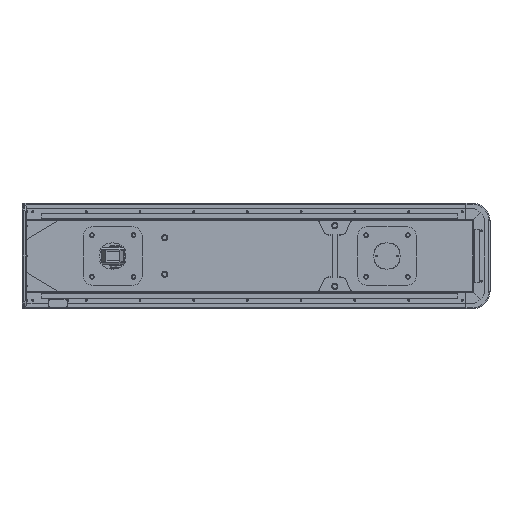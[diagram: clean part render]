
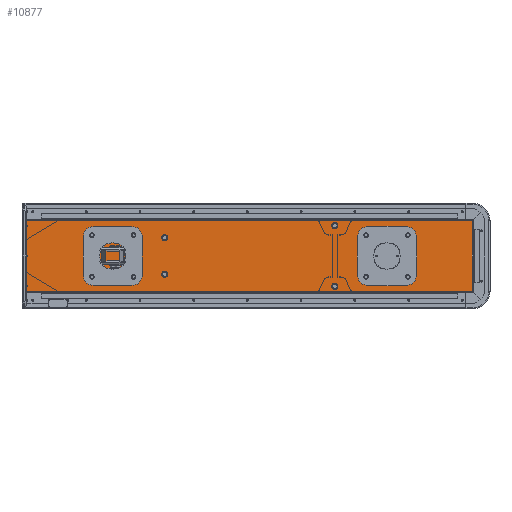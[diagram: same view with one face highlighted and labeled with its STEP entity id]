
A CAD part, front view. The second image highlights one B-rep face of the part: STEP entity #10877.
In plain terms, the highlighted planar face has unit normal (0.013, -1, 0).
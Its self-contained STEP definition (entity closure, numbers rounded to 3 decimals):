
#711 = ORIENTED_EDGE ( 'NONE', *, *, #37029, .T. ) ;
#1322 = AXIS2_PLACEMENT_3D ( 'NONE', #62960, #57526, #13883 ) ;
#1842 = DIRECTION ( 'NONE',  ( -1., -0.013, 0. ) ) ;
#4982 = CIRCLE ( 'NONE', #23950, 4.05 ) ;
#4999 = VERTEX_POINT ( 'NONE', #42455 ) ;
#5925 = FACE_OUTER_BOUND ( 'NONE', #59277, .T. ) ;
#6568 = CARTESIAN_POINT ( 'NONE',  ( 641.32, 540.03, 101.5 ) ) ;
#8211 = DIRECTION ( 'NONE',  ( 0., 0., 1. ) ) ;
#8686 = CARTESIAN_POINT ( 'NONE',  ( -245.109, 528.809, 52.5 ) ) ;
#9005 = EDGE_CURVE ( 'NONE', #11003, #34115, #30200, .T. ) ;
#9031 = FACE_BOUND ( 'NONE', #33028, .T. ) ;
#9731 = CARTESIAN_POINT ( 'NONE',  ( -241.059, 528.86, 52.5 ) ) ;
#10877 = ADVANCED_FACE ( 'NONE', ( #38356, #15917, #15846, #9031, #5925 ), #44119, .T. ) ;
#11003 = VERTEX_POINT ( 'NONE', #9731 ) ;
#11688 = CARTESIAN_POINT ( 'NONE',  ( 240.802, 534.96, -87.5 ) ) ;
#11759 = EDGE_CURVE ( 'NONE', #41315, #31837, #22737, .T. ) ;
#12250 = CARTESIAN_POINT ( 'NONE',  ( 244.852, 535.011, 87.5 ) ) ;
#13015 = DIRECTION ( 'NONE',  ( -0.013, 1., 0. ) ) ;
#13615 = DIRECTION ( 'NONE',  ( 1., 0.013, 0. ) ) ;
#13883 = DIRECTION ( 'NONE',  ( 1., 0.013, 0. ) ) ;
#15319 = VERTEX_POINT ( 'NONE', #55532 ) ;
#15846 = FACE_BOUND ( 'NONE', #16862, .T. ) ;
#15917 = FACE_BOUND ( 'NONE', #43926, .T. ) ;
#16389 = CARTESIAN_POINT ( 'NONE',  ( 240.802, 534.96, 87.5 ) ) ;
#16862 = EDGE_LOOP ( 'NONE', ( #711, #61822 ) ) ;
#16916 = CARTESIAN_POINT ( 'NONE',  ( -245.109, 528.809, 52.5 ) ) ;
#17565 = DIRECTION ( 'NONE',  ( 1., 0.013, 0. ) ) ;
#17698 = DIRECTION ( 'NONE',  ( 1., 0.013, 0. ) ) ;
#18479 = AXIS2_PLACEMENT_3D ( 'NONE', #12250, #22137, #60923 ) ;
#20429 = DIRECTION ( 'NONE',  ( -0.013, 1., 0. ) ) ;
#20483 = VERTEX_POINT ( 'NONE', #27245 ) ;
#20641 = CARTESIAN_POINT ( 'NONE',  ( 244.852, 535.011, -87.5 ) ) ;
#21887 = DIRECTION ( 'NONE',  ( 1., 0.013, 0. ) ) ;
#22137 = DIRECTION ( 'NONE',  ( -0.013, 1., 0. ) ) ;
#22630 = CARTESIAN_POINT ( 'NONE',  ( 641.32, 540.03, -102.429 ) ) ;
#22737 = LINE ( 'NONE', #42456, #62244 ) ;
#23182 = AXIS2_PLACEMENT_3D ( 'NONE', #35636, #26088, #50592 ) ;
#23193 = EDGE_LOOP ( 'NONE', ( #40821, #61912 ) ) ;
#23950 = AXIS2_PLACEMENT_3D ( 'NONE', #62376, #47666, #17565 ) ;
#24865 = CARTESIAN_POINT ( 'NONE',  ( -249.159, 528.758, -52.5 ) ) ;
#25882 = EDGE_CURVE ( 'NONE', #41315, #4999, #41845, .T. ) ;
#26088 = DIRECTION ( 'NONE',  ( -0.013, 1., 0. ) ) ;
#26826 = ORIENTED_EDGE ( 'NONE', *, *, #25882, .F. ) ;
#27245 = CARTESIAN_POINT ( 'NONE',  ( 248.901, 535.063, 87.5 ) ) ;
#27596 = DIRECTION ( 'NONE',  ( -0.013, 1., 0. ) ) ;
#27920 = EDGE_CURVE ( 'NONE', #20483, #47024, #46693, .T. ) ;
#28483 = ORIENTED_EDGE ( 'NONE', *, *, #27920, .T. ) ;
#28587 = VECTOR ( 'NONE', #46031, 1000. ) ;
#29107 = ORIENTED_EDGE ( 'NONE', *, *, #11759, .T. ) ;
#30200 = CIRCLE ( 'NONE', #49597, 4.05 ) ;
#30294 = EDGE_CURVE ( 'NONE', #54648, #56284, #62279, .T. ) ;
#30558 = ORIENTED_EDGE ( 'NONE', *, *, #39678, .T. ) ;
#31837 = VERTEX_POINT ( 'NONE', #35504 ) ;
#32009 = CARTESIAN_POINT ( 'NONE',  ( -249.159, 528.758, 52.5 ) ) ;
#33028 = EDGE_LOOP ( 'NONE', ( #39385, #35675 ) ) ;
#33503 = DIRECTION ( 'NONE',  ( 0.013, -1., 0. ) ) ;
#33513 = EDGE_CURVE ( 'NONE', #60016, #4999, #33707, .T. ) ;
#33707 = LINE ( 'NONE', #60813, #60065 ) ;
#34115 = VERTEX_POINT ( 'NONE', #32009 ) ;
#34991 = LINE ( 'NONE', #22630, #60570 ) ;
#35504 = CARTESIAN_POINT ( 'NONE',  ( 641.32, 540.03, -101.5 ) ) ;
#35636 = CARTESIAN_POINT ( 'NONE',  ( 244.852, 535.011, -87.5 ) ) ;
#35675 = ORIENTED_EDGE ( 'NONE', *, *, #53852, .T. ) ;
#37029 = EDGE_CURVE ( 'NONE', #15319, #47944, #4982, .T. ) ;
#38356 = FACE_BOUND ( 'NONE', #23193, .T. ) ;
#39385 = ORIENTED_EDGE ( 'NONE', *, *, #9005, .T. ) ;
#39678 = EDGE_CURVE ( 'NONE', #47024, #20483, #40449, .T. ) ;
#40221 = CARTESIAN_POINT ( 'NONE',  ( -642.077, 523.784, -101.5 ) ) ;
#40449 = CIRCLE ( 'NONE', #45488, 4.05 ) ;
#40821 = ORIENTED_EDGE ( 'NONE', *, *, #30294, .T. ) ;
#41262 = EDGE_CURVE ( 'NONE', #56284, #54648, #43526, .T. ) ;
#41315 = VERTEX_POINT ( 'NONE', #40221 ) ;
#41845 = LINE ( 'NONE', #60732, #28587 ) ;
#42455 = CARTESIAN_POINT ( 'NONE',  ( -642.077, 523.784, 101.5 ) ) ;
#42456 = CARTESIAN_POINT ( 'NONE',  ( -645.077, 523.746, -101.5 ) ) ;
#43500 = DIRECTION ( 'NONE',  ( 0., 0., 1. ) ) ;
#43526 = CIRCLE ( 'NONE', #23182, 4.05 ) ;
#43739 = DIRECTION ( 'NONE',  ( 1., 0.013, 0. ) ) ;
#43926 = EDGE_LOOP ( 'NONE', ( #28483, #30558 ) ) ;
#44119 = PLANE ( 'NONE',  #57645 ) ;
#44481 = EDGE_CURVE ( 'NONE', #47944, #15319, #63345, .T. ) ;
#45488 = AXIS2_PLACEMENT_3D ( 'NONE', #57518, #13015, #17698 ) ;
#45577 = DIRECTION ( 'NONE',  ( 1., 0.013, 0. ) ) ;
#45770 = EDGE_CURVE ( 'NONE', #31837, #60016, #34991, .T. ) ;
#46031 = DIRECTION ( 'NONE',  ( 0., 0., 1. ) ) ;
#46693 = CIRCLE ( 'NONE', #18479, 4.05 ) ;
#47024 = VERTEX_POINT ( 'NONE', #16389 ) ;
#47666 = DIRECTION ( 'NONE',  ( -0.013, 1., 0. ) ) ;
#47718 = CIRCLE ( 'NONE', #63074, 4.05 ) ;
#47944 = VERTEX_POINT ( 'NONE', #24865 ) ;
#49597 = AXIS2_PLACEMENT_3D ( 'NONE', #8686, #27596, #13615 ) ;
#50592 = DIRECTION ( 'NONE',  ( 1., 0.013, 0. ) ) ;
#51551 = DIRECTION ( 'NONE',  ( -0.013, 1., 0. ) ) ;
#53281 = AXIS2_PLACEMENT_3D ( 'NONE', #20641, #20429, #45577 ) ;
#53852 = EDGE_CURVE ( 'NONE', #34115, #11003, #47718, .T. ) ;
#54026 = CARTESIAN_POINT ( 'NONE',  ( -0.379, 531.907, 0. ) ) ;
#54648 = VERTEX_POINT ( 'NONE', #60802 ) ;
#55532 = CARTESIAN_POINT ( 'NONE',  ( -241.059, 528.86, -52.5 ) ) ;
#56284 = VERTEX_POINT ( 'NONE', #11688 ) ;
#57145 = ORIENTED_EDGE ( 'NONE', *, *, #45770, .T. ) ;
#57518 = CARTESIAN_POINT ( 'NONE',  ( 244.852, 535.011, 87.5 ) ) ;
#57526 = DIRECTION ( 'NONE',  ( -0.013, 1., 0. ) ) ;
#57645 = AXIS2_PLACEMENT_3D ( 'NONE', #54026, #33503, #43500 ) ;
#59277 = EDGE_LOOP ( 'NONE', ( #60942, #26826, #29107, #57145 ) ) ;
#60016 = VERTEX_POINT ( 'NONE', #6568 ) ;
#60065 = VECTOR ( 'NONE', #1842, 1000. ) ;
#60570 = VECTOR ( 'NONE', #8211, 1000. ) ;
#60732 = CARTESIAN_POINT ( 'NONE',  ( -642.077, 523.784, -101.5 ) ) ;
#60802 = CARTESIAN_POINT ( 'NONE',  ( 248.901, 535.063, -87.5 ) ) ;
#60813 = CARTESIAN_POINT ( 'NONE',  ( 642.249, 540.042, 101.5 ) ) ;
#60923 = DIRECTION ( 'NONE',  ( 1., 0.013, 0. ) ) ;
#60942 = ORIENTED_EDGE ( 'NONE', *, *, #33513, .T. ) ;
#61822 = ORIENTED_EDGE ( 'NONE', *, *, #44481, .T. ) ;
#61912 = ORIENTED_EDGE ( 'NONE', *, *, #41262, .T. ) ;
#62244 = VECTOR ( 'NONE', #43739, 1000. ) ;
#62279 = CIRCLE ( 'NONE', #53281, 4.05 ) ;
#62376 = CARTESIAN_POINT ( 'NONE',  ( -245.109, 528.809, -52.5 ) ) ;
#62960 = CARTESIAN_POINT ( 'NONE',  ( -245.109, 528.809, -52.5 ) ) ;
#63074 = AXIS2_PLACEMENT_3D ( 'NONE', #16916, #51551, #21887 ) ;
#63345 = CIRCLE ( 'NONE', #1322, 4.05 ) ;
